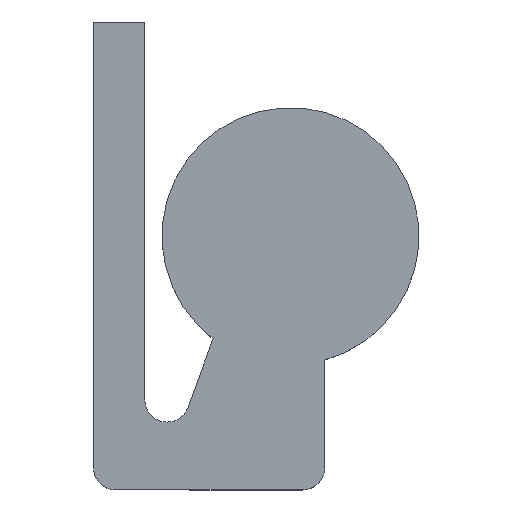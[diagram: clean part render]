
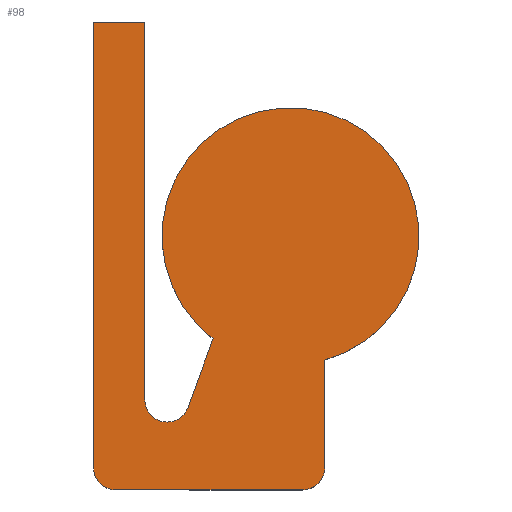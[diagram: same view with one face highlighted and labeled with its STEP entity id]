
A CAD part, top view. The second image highlights one B-rep face of the part: STEP entity #98.
In plain terms, the highlighted planar face has unit normal (0, 0, 1).
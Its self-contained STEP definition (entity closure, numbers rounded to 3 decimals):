
#98 = ADVANCED_FACE( '', ( #216 ), #217, .F. );
#216 = FACE_OUTER_BOUND( '', #360, .T. );
#217 = PLANE( '', #361 );
#360 = EDGE_LOOP( '', ( #590, #591, #592, #593, #594, #595, #596, #597, #598, #599, #600 ) );
#361 = AXIS2_PLACEMENT_3D( '', #601, #602, #603 );
#590 = ORIENTED_EDGE( '', *, *, #836, .F. );
#591 = ORIENTED_EDGE( '', *, *, #837, .T. );
#592 = ORIENTED_EDGE( '', *, *, #827, .F. );
#593 = ORIENTED_EDGE( '', *, *, #814, .F. );
#594 = ORIENTED_EDGE( '', *, *, #762, .F. );
#595 = ORIENTED_EDGE( '', *, *, #838, .F. );
#596 = ORIENTED_EDGE( '', *, *, #839, .F. );
#597 = ORIENTED_EDGE( '', *, *, #788, .F. );
#598 = ORIENTED_EDGE( '', *, *, #782, .F. );
#599 = ORIENTED_EDGE( '', *, *, #840, .F. );
#600 = ORIENTED_EDGE( '', *, *, #805, .F. );
#601 = CARTESIAN_POINT( '', ( -150., 150., 0. ) );
#602 = DIRECTION( '', ( 0., 0., -1. ) );
#603 = DIRECTION( '', ( 0., 1., 0. ) );
#762 = EDGE_CURVE( '', #881, #883, #884, .T. );
#782 = EDGE_CURVE( '', #916, #918, #919, .T. );
#788 = EDGE_CURVE( '', #918, #927, #928, .F. );
#805 = EDGE_CURVE( '', #954, #956, #957, .F. );
#814 = EDGE_CURVE( '', #883, #969, #970, .T. );
#827 = EDGE_CURVE( '', #969, #987, #988, .T. );
#836 = EDGE_CURVE( '', #1000, #954, #1001, .T. );
#837 = EDGE_CURVE( '', #1000, #987, #1002, .T. );
#838 = EDGE_CURVE( '', #1003, #881, #1004, .T. );
#839 = EDGE_CURVE( '', #927, #1003, #1005, .T. );
#840 = EDGE_CURVE( '', #956, #916, #1006, .T. );
#881 = VERTEX_POINT( '', #1058 );
#883 = VERTEX_POINT( '', #1061 );
#884 = LINE( '', #1062, #1063 );
#916 = VERTEX_POINT( '', #1109 );
#918 = VERTEX_POINT( '', #1112 );
#919 = LINE( '', #1113, #1114 );
#927 = VERTEX_POINT( '', #1123 );
#928 = CIRCLE( '', #1124, 13. );
#954 = VERTEX_POINT( '', #1155 );
#956 = VERTEX_POINT( '', #1158 );
#957 = CIRCLE( '', #1159, 13. );
#969 = VERTEX_POINT( '', #1173 );
#970 = CIRCLE( '', #1174, 13. );
#987 = VERTEX_POINT( '', #1199 );
#988 = LINE( '', #1200, #1201 );
#1000 = VERTEX_POINT( '', #1217 );
#1001 = LINE( '', #1218, #1219 );
#1002 = CIRCLE( '', #1220, 75. );
#1003 = VERTEX_POINT( '', #1221 );
#1004 = LINE( '', #1222, #1223 );
#1005 = LINE( '', #1224, #1225 );
#1006 = LINE( '', #1226, #1227 );
#1058 = CARTESIAN_POINT( '', ( -85., 125., 0. ) );
#1061 = CARTESIAN_POINT( '', ( -85., -95.485, 0. ) );
#1062 = CARTESIAN_POINT( '', ( -85., -150., 0. ) );
#1063 = VECTOR( '', #1282, 1000. );
#1109 = CARTESIAN_POINT( '', ( -58.714, -148., 0. ) );
#1112 = CARTESIAN_POINT( '', ( -102., -148., 0. ) );
#1113 = CARTESIAN_POINT( '', ( -150., -148., 0. ) );
#1114 = VECTOR( '', #1304, 1000. );
#1123 = CARTESIAN_POINT( '', ( -115., -135., 0. ) );
#1124 = AXIS2_PLACEMENT_3D( '', #1312, #1313, #1314 );
#1155 = CARTESIAN_POINT( '', ( 20., -135., 0. ) );
#1158 = CARTESIAN_POINT( '', ( 7., -148., 0. ) );
#1159 = AXIS2_PLACEMENT_3D( '', #1342, #1343, #1344 );
#1173 = CARTESIAN_POINT( '', ( -59.784, -99.931, 0. ) );
#1174 = AXIS2_PLACEMENT_3D( '', #1356, #1357, #1358 );
#1199 = CARTESIAN_POINT( '', ( -45.196, -59.852, 0. ) );
#1200 = CARTESIAN_POINT( '', ( -86.429, -173.138, 0. ) );
#1201 = VECTOR( '', #1370, 1000. );
#1217 = CARTESIAN_POINT( '', ( 20., -72.284, 0. ) );
#1218 = CARTESIAN_POINT( '', ( 20., -150., 0. ) );
#1219 = VECTOR( '', #1381, 1000. );
#1220 = AXIS2_PLACEMENT_3D( '', #1382, #1383, #1384 );
#1221 = CARTESIAN_POINT( '', ( -115., 125., 0. ) );
#1222 = CARTESIAN_POINT( '', ( -150., 125., 0. ) );
#1223 = VECTOR( '', #1385, 1000. );
#1224 = CARTESIAN_POINT( '', ( -115., -150., 0. ) );
#1225 = VECTOR( '', #1386, 1000. );
#1226 = CARTESIAN_POINT( '', ( -150., -148., 0. ) );
#1227 = VECTOR( '', #1387, 1000. );
#1282 = DIRECTION( '', ( 0., -1., 0. ) );
#1304 = DIRECTION( '', ( -1., 0., 0. ) );
#1312 = CARTESIAN_POINT( '', ( -102., -135., 0. ) );
#1313 = DIRECTION( '', ( 0., 0., 1. ) );
#1314 = DIRECTION( '', ( 1., 0., 0. ) );
#1342 = CARTESIAN_POINT( '', ( 7., -135., 0. ) );
#1343 = DIRECTION( '', ( 0., 0., 1. ) );
#1344 = DIRECTION( '', ( 1., 0., 0. ) );
#1356 = CARTESIAN_POINT( '', ( -72., -95.485, 0. ) );
#1357 = DIRECTION( '', ( 0., 0., 1. ) );
#1358 = DIRECTION( '', ( 1., 0., 0. ) );
#1370 = DIRECTION( '', ( 0.342, 0.94, 0. ) );
#1381 = DIRECTION( '', ( 0., -1., 0. ) );
#1382 = CARTESIAN_POINT( '', ( 0., 0., 0. ) );
#1383 = DIRECTION( '', ( 0., 0., 1. ) );
#1384 = DIRECTION( '', ( -1., 0., 0. ) );
#1385 = DIRECTION( '', ( 1., 0., 0. ) );
#1386 = DIRECTION( '', ( 0., 1., 0. ) );
#1387 = DIRECTION( '', ( -1., 0., 0. ) );
